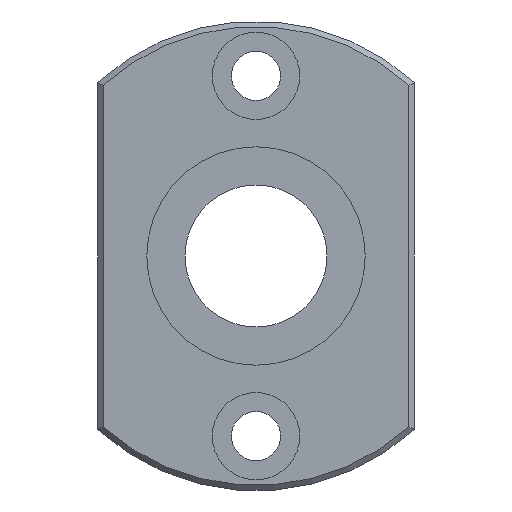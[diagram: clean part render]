
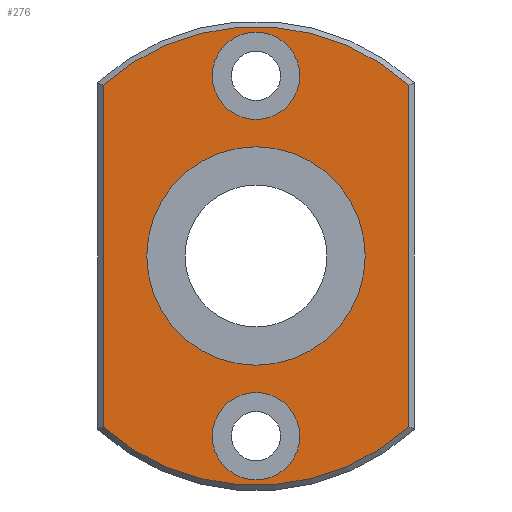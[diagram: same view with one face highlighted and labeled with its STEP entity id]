
A CAD part, left-side view. The second image highlights one B-rep face of the part: STEP entity #276.
In plain terms, the highlighted planar face has unit normal (-1, 0, 0).
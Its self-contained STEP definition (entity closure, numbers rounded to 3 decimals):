
#59=CARTESIAN_POINT('',(0.0,14.,-15.652));
#60=VERTEX_POINT('',#59);
#68=CARTESIAN_POINT('',(0.0,14.,15.652));
#69=VERTEX_POINT('',#68);
#70=CARTESIAN_POINT('',(0.0,14.,-15.652));
#71=DIRECTION('',(0.0,0.0,1.0));
#72=VECTOR('',#71,31.305);
#73=LINE('',#70,#72);
#74=EDGE_CURVE('',#60,#69,#73,.T.);
#101=CARTESIAN_POINT('',(0.0,-14.,15.652));
#102=VERTEX_POINT('',#101);
#103=CARTESIAN_POINT('',(0.0,0.0,0.0));
#104=DIRECTION('',(1.0,0.0,0.0));
#105=DIRECTION('',(0.0,0.0,1.0));
#106=AXIS2_PLACEMENT_3D('',#103,#104,#105);
#107=CIRCLE('',#106,21.0);
#108=EDGE_CURVE('',#69,#102,#107,.T.);
#134=CARTESIAN_POINT('',(0.0,-14.,-15.652));
#135=VERTEX_POINT('',#134);
#136=CARTESIAN_POINT('',(0.0,-14.,15.652));
#137=DIRECTION('',(0.0,0.0,-1.0));
#138=VECTOR('',#137,31.305);
#139=LINE('',#136,#138);
#140=EDGE_CURVE('',#102,#135,#139,.T.);
#165=CARTESIAN_POINT('',(0.0,0.0,0.0));
#166=DIRECTION('',(1.0,0.0,0.0));
#167=DIRECTION('',(0.0,0.0,-1.0));
#168=AXIS2_PLACEMENT_3D('',#165,#166,#167);
#169=CIRCLE('',#168,21.0);
#170=EDGE_CURVE('',#135,#60,#169,.T.);
#232=CARTESIAN_POINT('',(0.0,0.0,10.75));
#233=DIRECTION('',(-1.0,0.0,0.0));
#234=DIRECTION('',(0.0,0.0,1.0));
#235=AXIS2_PLACEMENT_3D('',#232,#233,#234);
#236=PLANE('',#235);
#237=ORIENTED_EDGE('',*,*,#74,.F.);
#238=ORIENTED_EDGE('',*,*,#170,.F.);
#239=ORIENTED_EDGE('',*,*,#140,.F.);
#240=ORIENTED_EDGE('',*,*,#108,.F.);
#241=EDGE_LOOP('',(#237,#238,#239,#240));
#242=FACE_OUTER_BOUND('',#241,.T.);
#243=CARTESIAN_POINT('',(0.0,0.0,10.));
#244=VERTEX_POINT('',#243);
#245=CARTESIAN_POINT('',(0.0,0.0,0.0));
#246=DIRECTION('',(-1.0,0.0,0.0));
#247=DIRECTION('',(0.0,0.0,1.0));
#248=AXIS2_PLACEMENT_3D('',#245,#246,#247);
#249=CIRCLE('',#248,10.);
#250=EDGE_CURVE('',#244,#244,#249,.T.);
#251=ORIENTED_EDGE('',*,*,#250,.F.);
#252=EDGE_LOOP('',(#251));
#253=FACE_BOUND('',#252,.T.);
#254=CARTESIAN_POINT('',(0.0,4.,-16.5));
#255=VERTEX_POINT('',#254);
#256=CARTESIAN_POINT('',(0.0,0.,-16.5));
#257=DIRECTION('',(1.0,0.0,0.0));
#258=DIRECTION('',(0.0,1.0,0.0));
#259=AXIS2_PLACEMENT_3D('',#256,#257,#258);
#260=CIRCLE('',#259,4.0);
#261=EDGE_CURVE('',#255,#255,#260,.T.);
#262=ORIENTED_EDGE('',*,*,#261,.T.);
#263=EDGE_LOOP('',(#262));
#264=FACE_BOUND('',#263,.T.);
#265=CARTESIAN_POINT('',(0.0,4.,16.5));
#266=VERTEX_POINT('',#265);
#267=CARTESIAN_POINT('',(0.0,0.,16.5));
#268=DIRECTION('',(1.0,0.0,0.0));
#269=DIRECTION('',(0.0,1.0,0.0));
#270=AXIS2_PLACEMENT_3D('',#267,#268,#269);
#271=CIRCLE('',#270,4.0);
#272=EDGE_CURVE('',#266,#266,#271,.T.);
#273=ORIENTED_EDGE('',*,*,#272,.T.);
#274=EDGE_LOOP('',(#273));
#275=FACE_BOUND('',#274,.T.);
#276=ADVANCED_FACE('',(#242,#253,#264,#275),#236,.T.);
